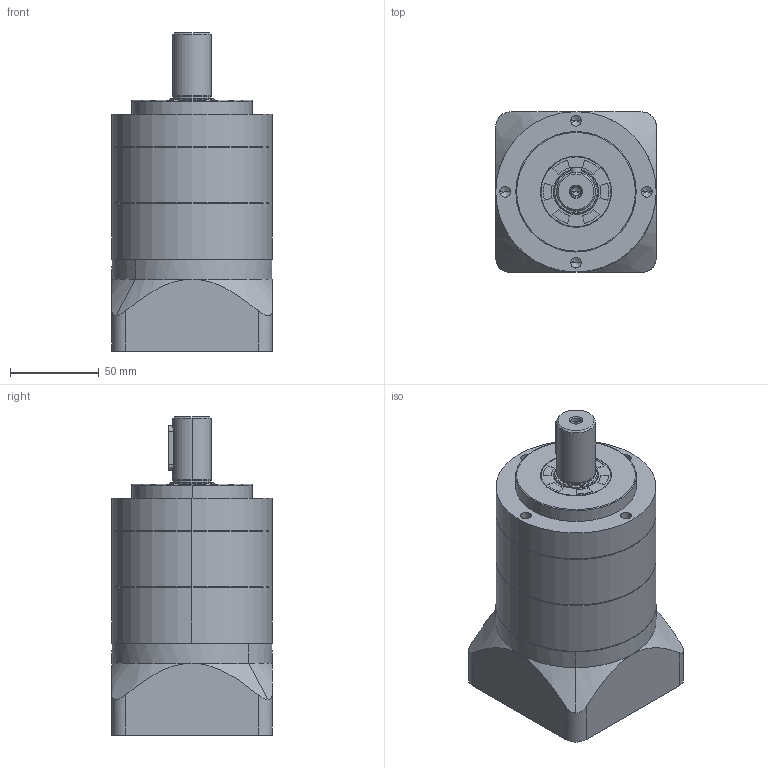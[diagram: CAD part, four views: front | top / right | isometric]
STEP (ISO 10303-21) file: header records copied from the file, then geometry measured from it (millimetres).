
FILE_DESCRIPTION (( 'STEP AP203' ), '1' );
FILE_NAME ('NA90-L2(12-83-104-M6).STEP', '2022-03-11T18:48:30', ( '' ), ( '' ), 'SwSTEP 2.0', 'SolidWorks 2016', '' );
FILE_SCHEMA (( 'CONFIG_CONTROL_DESIGN' ));
Length unit declared in the file: millimetre
Products named in the file (9): 90-(o19-12x26); NA90-L2(12-83-104-M6); SN90-48x27x15-M6; SN90-(19); SN90; SN90-25x40x5; SN90-(22x37-6x25); NA90-(68x8-80-M6); SN90-(83-104-M6)
Assembly tree (9 placements, depth 2):
  NA90-L2(12-83-104-M6)
    NA90-(68x8-80-M6)
    SN90-25x40x5
    SN90-(22x37-6x25)
    SN90  x2
    SN90-(83-104-M6)
    SN90-(19)
    SN90-48x27x15-M6
    90-(o19-12x26)
Bounding box: 90.5 x 90.5 x 179.5 mm (x, y, z)
Volume: 868701 mm3; surface area: 153134.4 mm2
Topology: 11 solids, 11 shells, 472 faces, 1216 edges, 766 vertices
Faces by surface type: cylinder 247, plane 116, cone 71, bspline 32, torus 6
Entity records: 30727 total; most frequent: CARTESIAN_POINT 19278, ORIENTED_EDGE 2272, DIRECTION 2145, EDGE_CURVE 1136, AXIS2_PLACEMENT_3D 842, VERTEX_POINT 734, EDGE_LOOP 518, LINE 461
